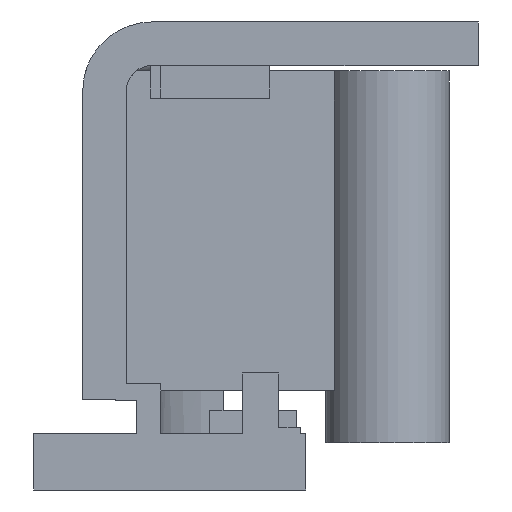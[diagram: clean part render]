
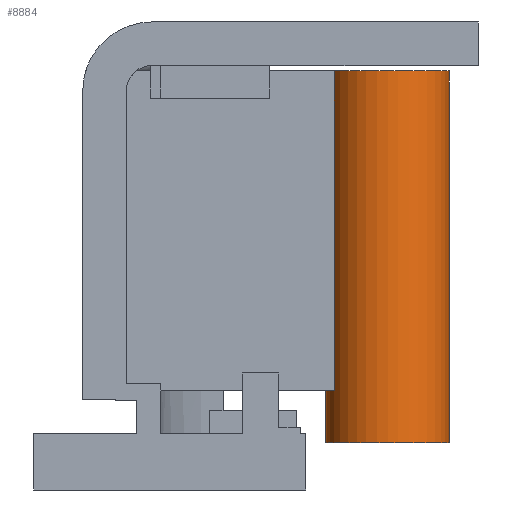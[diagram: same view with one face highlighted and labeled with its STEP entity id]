
A CAD part, front view. The second image highlights one B-rep face of the part: STEP entity #8884.
In plain terms, the highlighted cylindrical face has radius 3.4 mm (diameter 6.8 mm), a full revolution.
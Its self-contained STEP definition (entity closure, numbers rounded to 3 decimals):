
#5724 = PLANE('',#5725);
#5725 = AXIS2_PLACEMENT_3D('',#5726,#5727,#5728);
#5726 = CARTESIAN_POINT('',(-42.6,49.3,-7.5));
#5727 = DIRECTION('',(0.,1.,0.));
#5728 = DIRECTION('',(0.,-0.,1.));
#5854 = PLANE('',#5855);
#5855 = AXIS2_PLACEMENT_3D('',#5856,#5857,#5858);
#5856 = CARTESIAN_POINT('',(-42.6,49.3,-7.5));
#5857 = DIRECTION('',(0.,0.,1.));
#5858 = DIRECTION('',(1.,0.,-0.));
#5879 = PLANE('',#5880);
#5880 = AXIS2_PLACEMENT_3D('',#5881,#5882,#5883);
#5881 = CARTESIAN_POINT('',(-42.6,52.7,-7.5));
#5882 = DIRECTION('',(0.,1.,0.));
#5883 = DIRECTION('',(0.,-0.,1.));
#6904 = PLANE('',#6905);
#6905 = AXIS2_PLACEMENT_3D('',#6906,#6907,#6908);
#6906 = CARTESIAN_POINT('',(-42.6,49.3,10.1));
#6907 = DIRECTION('',(0.,0.,1.));
#6908 = DIRECTION('',(1.,0.,-0.));
#7982 = VERTEX_POINT('',#7983);
#7983 = CARTESIAN_POINT('',(-28.944,49.3,-7.5));
#8028 = VERTEX_POINT('',#8029);
#8029 = CARTESIAN_POINT('',(-28.944,49.3,10.1));
#8050 = EDGE_CURVE('',#8028,#7982,#8051,.T.);
#8051 = SURFACE_CURVE('',#8052,(#8056,#8063),.PCURVE_S1.);
#8052 = LINE('',#8053,#8054);
#8053 = CARTESIAN_POINT('',(-28.944,49.3,-10.4));
#8054 = VECTOR('',#8055,1.);
#8055 = DIRECTION('',(-0.,-0.,-1.));
#8056 = PCURVE('',#5724,#8057);
#8057 = DEFINITIONAL_REPRESENTATION('',(#8058),#8062);
#8058 = LINE('',#8059,#8060);
#8059 = CARTESIAN_POINT('',(-2.9,13.656));
#8060 = VECTOR('',#8061,1.);
#8061 = DIRECTION('',(-1.,0.));
#8062 = ( GEOMETRIC_REPRESENTATION_CONTEXT(2) 
PARAMETRIC_REPRESENTATION_CONTEXT() REPRESENTATION_CONTEXT('2D SPACE',''
  ) );
#8063 = PCURVE('',#8064,#8069);
#8064 = CYLINDRICAL_SURFACE('',#8065,3.4);
#8065 = AXIS2_PLACEMENT_3D('',#8066,#8067,#8068);
#8066 = CARTESIAN_POINT('',(-26.,51.,-10.4));
#8067 = DIRECTION('',(-0.,-0.,-1.));
#8068 = DIRECTION('',(1.,0.,0.));
#8069 = DEFINITIONAL_REPRESENTATION('',(#8070),#8073);
#8070 = B_SPLINE_CURVE_WITH_KNOTS('',1,(#8071,#8072),.UNSPECIFIED.,.F.,
  .F.,(2,2),(-20.5,-1.14),.PIECEWISE_BEZIER_KNOTS.);
#8071 = CARTESIAN_POINT('',(2.618,-20.5));
#8072 = CARTESIAN_POINT('',(2.618,-1.14));
#8073 = ( GEOMETRIC_REPRESENTATION_CONTEXT(2) 
PARAMETRIC_REPRESENTATION_CONTEXT() REPRESENTATION_CONTEXT('2D SPACE',''
  ) );
#8086 = VERTEX_POINT('',#8087);
#8087 = CARTESIAN_POINT('',(-28.944,52.7,-7.5));
#8113 = VERTEX_POINT('',#8114);
#8114 = CARTESIAN_POINT('',(-28.944,52.7,10.1));
#8135 = EDGE_CURVE('',#8113,#8086,#8136,.T.);
#8136 = SURFACE_CURVE('',#8137,(#8141,#8148),.PCURVE_S1.);
#8137 = LINE('',#8138,#8139);
#8138 = CARTESIAN_POINT('',(-28.944,52.7,-10.4));
#8139 = VECTOR('',#8140,1.);
#8140 = DIRECTION('',(-0.,-0.,-1.));
#8141 = PCURVE('',#5879,#8142);
#8142 = DEFINITIONAL_REPRESENTATION('',(#8143),#8147);
#8143 = LINE('',#8144,#8145);
#8144 = CARTESIAN_POINT('',(-2.9,13.656));
#8145 = VECTOR('',#8146,1.);
#8146 = DIRECTION('',(-1.,0.));
#8147 = ( GEOMETRIC_REPRESENTATION_CONTEXT(2) 
PARAMETRIC_REPRESENTATION_CONTEXT() REPRESENTATION_CONTEXT('2D SPACE',''
  ) );
#8148 = PCURVE('',#8064,#8149);
#8149 = DEFINITIONAL_REPRESENTATION('',(#8150),#8153);
#8150 = B_SPLINE_CURVE_WITH_KNOTS('',1,(#8151,#8152),.UNSPECIFIED.,.F.,
  .F.,(2,2),(-20.5,-1.14),.PIECEWISE_BEZIER_KNOTS.);
#8151 = CARTESIAN_POINT('',(3.665,-20.5));
#8152 = CARTESIAN_POINT('',(3.665,-1.14));
#8153 = ( GEOMETRIC_REPRESENTATION_CONTEXT(2) 
PARAMETRIC_REPRESENTATION_CONTEXT() REPRESENTATION_CONTEXT('2D SPACE',''
  ) );
#8160 = EDGE_CURVE('',#7982,#8086,#8161,.T.);
#8161 = SURFACE_CURVE('',#8162,(#8167,#8178),.PCURVE_S1.);
#8162 = CIRCLE('',#8163,3.4);
#8163 = AXIS2_PLACEMENT_3D('',#8164,#8165,#8166);
#8164 = CARTESIAN_POINT('',(-26.,51.,-7.5));
#8165 = DIRECTION('',(0.,0.,-1.));
#8166 = DIRECTION('',(1.,0.,0.));
#8167 = PCURVE('',#5854,#8168);
#8168 = DEFINITIONAL_REPRESENTATION('',(#8169),#8177);
#8169 = ( BOUNDED_CURVE() B_SPLINE_CURVE(2,(#8170,#8171,#8172,#8173,
#8174,#8175,#8176),.UNSPECIFIED.,.T.,.F.) B_SPLINE_CURVE_WITH_KNOTS((1,2
    ,2,2,2,1),(-2.094,0.,2.094,4.189,
6.283,8.378),.UNSPECIFIED.) CURVE() 
GEOMETRIC_REPRESENTATION_ITEM() RATIONAL_B_SPLINE_CURVE((1.,0.5,1.,0.5,
1.,0.5,1.)) REPRESENTATION_ITEM('') );
#8170 = CARTESIAN_POINT('',(20.,1.7));
#8171 = CARTESIAN_POINT('',(20.,-4.189));
#8172 = CARTESIAN_POINT('',(14.9,-1.244));
#8173 = CARTESIAN_POINT('',(9.8,1.7));
#8174 = CARTESIAN_POINT('',(14.9,4.644));
#8175 = CARTESIAN_POINT('',(20.,7.589));
#8176 = CARTESIAN_POINT('',(20.,1.7));
#8177 = ( GEOMETRIC_REPRESENTATION_CONTEXT(2) 
PARAMETRIC_REPRESENTATION_CONTEXT() REPRESENTATION_CONTEXT('2D SPACE',''
  ) );
#8178 = PCURVE('',#8064,#8179);
#8179 = DEFINITIONAL_REPRESENTATION('',(#8180),#8184);
#8180 = LINE('',#8181,#8182);
#8181 = CARTESIAN_POINT('',(0.,-2.9));
#8182 = VECTOR('',#8183,1.);
#8183 = DIRECTION('',(1.,-0.));
#8184 = ( GEOMETRIC_REPRESENTATION_CONTEXT(2) 
PARAMETRIC_REPRESENTATION_CONTEXT() REPRESENTATION_CONTEXT('2D SPACE',''
  ) );
#8792 = EDGE_CURVE('',#8028,#8793,#8795,.T.);
#8793 = VERTEX_POINT('',#8794);
#8794 = CARTESIAN_POINT('',(-22.6,51.,10.1));
#8795 = SURFACE_CURVE('',#8796,(#8801,#8808),.PCURVE_S1.);
#8796 = CIRCLE('',#8797,3.4);
#8797 = AXIS2_PLACEMENT_3D('',#8798,#8799,#8800);
#8798 = CARTESIAN_POINT('',(-26.,51.,10.1));
#8799 = DIRECTION('',(0.,0.,1.));
#8800 = DIRECTION('',(1.,0.,-0.));
#8801 = PCURVE('',#6904,#8802);
#8802 = DEFINITIONAL_REPRESENTATION('',(#8803),#8807);
#8803 = CIRCLE('',#8804,3.4);
#8804 = AXIS2_PLACEMENT_2D('',#8805,#8806);
#8805 = CARTESIAN_POINT('',(16.6,1.7));
#8806 = DIRECTION('',(1.,0.));
#8807 = ( GEOMETRIC_REPRESENTATION_CONTEXT(2) 
PARAMETRIC_REPRESENTATION_CONTEXT() REPRESENTATION_CONTEXT('2D SPACE',''
  ) );
#8808 = PCURVE('',#8064,#8809);
#8809 = DEFINITIONAL_REPRESENTATION('',(#8810),#8814);
#8810 = LINE('',#8811,#8812);
#8811 = CARTESIAN_POINT('',(6.283,-20.5));
#8812 = VECTOR('',#8813,1.);
#8813 = DIRECTION('',(-1.,0.));
#8814 = ( GEOMETRIC_REPRESENTATION_CONTEXT(2) 
PARAMETRIC_REPRESENTATION_CONTEXT() REPRESENTATION_CONTEXT('2D SPACE',''
  ) );
#8816 = EDGE_CURVE('',#8793,#8113,#8817,.T.);
#8817 = SURFACE_CURVE('',#8818,(#8823,#8830),.PCURVE_S1.);
#8818 = CIRCLE('',#8819,3.4);
#8819 = AXIS2_PLACEMENT_3D('',#8820,#8821,#8822);
#8820 = CARTESIAN_POINT('',(-26.,51.,10.1));
#8821 = DIRECTION('',(0.,0.,1.));
#8822 = DIRECTION('',(1.,0.,-0.));
#8823 = PCURVE('',#6904,#8824);
#8824 = DEFINITIONAL_REPRESENTATION('',(#8825),#8829);
#8825 = CIRCLE('',#8826,3.4);
#8826 = AXIS2_PLACEMENT_2D('',#8827,#8828);
#8827 = CARTESIAN_POINT('',(16.6,1.7));
#8828 = DIRECTION('',(1.,0.));
#8829 = ( GEOMETRIC_REPRESENTATION_CONTEXT(2) 
PARAMETRIC_REPRESENTATION_CONTEXT() REPRESENTATION_CONTEXT('2D SPACE',''
  ) );
#8830 = PCURVE('',#8064,#8831);
#8831 = DEFINITIONAL_REPRESENTATION('',(#8832),#8836);
#8832 = LINE('',#8833,#8834);
#8833 = CARTESIAN_POINT('',(6.283,-20.5));
#8834 = VECTOR('',#8835,1.);
#8835 = DIRECTION('',(-1.,0.));
#8836 = ( GEOMETRIC_REPRESENTATION_CONTEXT(2) 
PARAMETRIC_REPRESENTATION_CONTEXT() REPRESENTATION_CONTEXT('2D SPACE',''
  ) );
#8884 = ADVANCED_FACE('',(#8885),#8064,.T.);
#8885 = FACE_BOUND('',#8886,.T.);
#8886 = EDGE_LOOP('',(#8887,#8910,#8911,#8912,#8913,#8914,#8915,#8916));
#8887 = ORIENTED_EDGE('',*,*,#8888,.T.);
#8888 = EDGE_CURVE('',#8889,#8793,#8891,.T.);
#8889 = VERTEX_POINT('',#8890);
#8890 = CARTESIAN_POINT('',(-22.6,51.,-10.4));
#8891 = SEAM_CURVE('',#8892,(#8896,#8903),.PCURVE_S1.);
#8892 = LINE('',#8893,#8894);
#8893 = CARTESIAN_POINT('',(-22.6,51.,-10.4));
#8894 = VECTOR('',#8895,1.);
#8895 = DIRECTION('',(0.,0.,1.));
#8896 = PCURVE('',#8064,#8897);
#8897 = DEFINITIONAL_REPRESENTATION('',(#8898),#8902);
#8898 = LINE('',#8899,#8900);
#8899 = CARTESIAN_POINT('',(0.,0.));
#8900 = VECTOR('',#8901,1.);
#8901 = DIRECTION('',(-0.,-1.));
#8902 = ( GEOMETRIC_REPRESENTATION_CONTEXT(2) 
PARAMETRIC_REPRESENTATION_CONTEXT() REPRESENTATION_CONTEXT('2D SPACE',''
  ) );
#8903 = PCURVE('',#8064,#8904);
#8904 = DEFINITIONAL_REPRESENTATION('',(#8905),#8909);
#8905 = LINE('',#8906,#8907);
#8906 = CARTESIAN_POINT('',(6.283,0.));
#8907 = VECTOR('',#8908,1.);
#8908 = DIRECTION('',(-0.,-1.));
#8909 = ( GEOMETRIC_REPRESENTATION_CONTEXT(2) 
PARAMETRIC_REPRESENTATION_CONTEXT() REPRESENTATION_CONTEXT('2D SPACE',''
  ) );
#8910 = ORIENTED_EDGE('',*,*,#8792,.F.);
#8911 = ORIENTED_EDGE('',*,*,#8050,.T.);
#8912 = ORIENTED_EDGE('',*,*,#8160,.T.);
#8913 = ORIENTED_EDGE('',*,*,#8135,.F.);
#8914 = ORIENTED_EDGE('',*,*,#8816,.F.);
#8915 = ORIENTED_EDGE('',*,*,#8888,.F.);
#8916 = ORIENTED_EDGE('',*,*,#8917,.T.);
#8917 = EDGE_CURVE('',#8889,#8889,#8918,.T.);
#8918 = SURFACE_CURVE('',#8919,(#8924,#8931),.PCURVE_S1.);
#8919 = CIRCLE('',#8920,3.4);
#8920 = AXIS2_PLACEMENT_3D('',#8921,#8922,#8923);
#8921 = CARTESIAN_POINT('',(-26.,51.,-10.4));
#8922 = DIRECTION('',(0.,0.,1.));
#8923 = DIRECTION('',(1.,0.,-0.));
#8924 = PCURVE('',#8064,#8925);
#8925 = DEFINITIONAL_REPRESENTATION('',(#8926),#8930);
#8926 = LINE('',#8927,#8928);
#8927 = CARTESIAN_POINT('',(6.283,0.));
#8928 = VECTOR('',#8929,1.);
#8929 = DIRECTION('',(-1.,0.));
#8930 = ( GEOMETRIC_REPRESENTATION_CONTEXT(2) 
PARAMETRIC_REPRESENTATION_CONTEXT() REPRESENTATION_CONTEXT('2D SPACE',''
  ) );
#8931 = PCURVE('',#8932,#8937);
#8932 = PLANE('',#8933);
#8933 = AXIS2_PLACEMENT_3D('',#8934,#8935,#8936);
#8934 = CARTESIAN_POINT('',(-26.,51.,-10.4));
#8935 = DIRECTION('',(0.,0.,1.));
#8936 = DIRECTION('',(1.,0.,-0.));
#8937 = DEFINITIONAL_REPRESENTATION('',(#8938),#8942);
#8938 = CIRCLE('',#8939,3.4);
#8939 = AXIS2_PLACEMENT_2D('',#8940,#8941);
#8940 = CARTESIAN_POINT('',(0.,0.));
#8941 = DIRECTION('',(1.,0.));
#8942 = ( GEOMETRIC_REPRESENTATION_CONTEXT(2) 
PARAMETRIC_REPRESENTATION_CONTEXT() REPRESENTATION_CONTEXT('2D SPACE',''
  ) );
